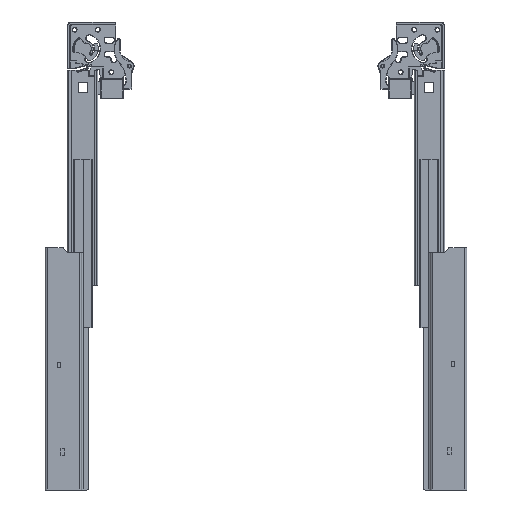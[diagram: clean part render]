
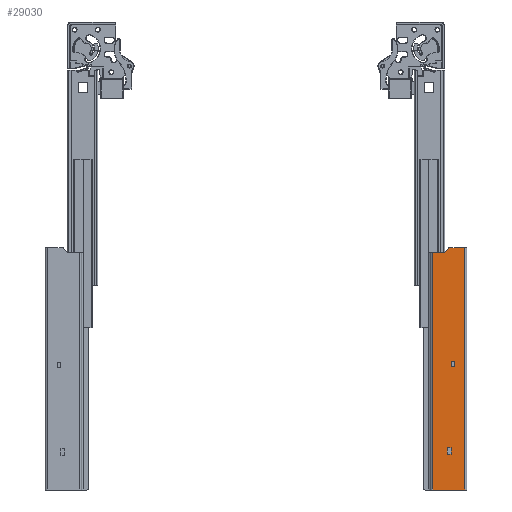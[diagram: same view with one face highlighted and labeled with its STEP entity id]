
A CAD part, front view. The second image highlights one B-rep face of the part: STEP entity #29030.
In plain terms, the highlighted planar face has unit normal (0, -1, 0).
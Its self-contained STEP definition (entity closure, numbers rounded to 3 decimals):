
#877=FACE_BOUND('',#6063,.T.);
#878=FACE_BOUND('',#6064,.T.);
#1187=CIRCLE('',#31018,2.);
#1189=CIRCLE('',#31022,2.);
#4128=FACE_OUTER_BOUND('',#6062,.T.);
#6062=EDGE_LOOP('',(#18963,#18964,#18965,#18966,#18967,#18968,#18969,#18970));
#6063=EDGE_LOOP('',(#18971,#18972,#18973,#18974));
#6064=EDGE_LOOP('',(#18975,#18976,#18977,#18978));
#8121=LINE('',#45211,#10031);
#8125=LINE('',#45219,#10035);
#8128=LINE('',#45225,#10038);
#8131=LINE('',#45230,#10041);
#8133=LINE('',#45236,#10043);
#8137=LINE('',#45244,#10047);
#8140=LINE('',#45250,#10050);
#8143=LINE('',#45255,#10053);
#8161=LINE('',#45312,#10071);
#8180=LINE('',#45364,#10090);
#8183=LINE('',#45375,#10093);
#8184=LINE('',#45378,#10094);
#8185=LINE('',#45380,#10095);
#8186=LINE('',#45381,#10096);
#10031=VECTOR('',#35344,5.);
#10035=VECTOR('',#35350,3.);
#10038=VECTOR('',#35355,5.);
#10041=VECTOR('',#35360,3.);
#10043=VECTOR('',#35366,6.);
#10047=VECTOR('',#35372,3.5);
#10050=VECTOR('',#35377,6.);
#10053=VECTOR('',#35382,3.5);
#10071=VECTOR('',#35436,5.414);
#10090=VECTOR('',#35481,9.672);
#10093=VECTOR('',#35492,225.);
#10094=VECTOR('',#35495,30.5);
#10095=VECTOR('',#35496,230.);
#10096=VECTOR('',#35497,14.172);
#11983=VERTEX_POINT('',#45209);
#11984=VERTEX_POINT('',#45210);
#11987=VERTEX_POINT('',#45218);
#11989=VERTEX_POINT('',#45224);
#11991=VERTEX_POINT('',#45234);
#11992=VERTEX_POINT('',#45235);
#11995=VERTEX_POINT('',#45243);
#11997=VERTEX_POINT('',#45249);
#12017=VERTEX_POINT('',#45305);
#12018=VERTEX_POINT('',#45307);
#12019=VERTEX_POINT('',#45311);
#12022=VERTEX_POINT('',#45319);
#12039=VERTEX_POINT('',#45362);
#12043=VERTEX_POINT('',#45373);
#12044=VERTEX_POINT('',#45377);
#12045=VERTEX_POINT('',#45379);
#14473=EDGE_CURVE('',#11983,#11984,#8121,.T.);
#14477=EDGE_CURVE('',#11984,#11987,#8125,.T.);
#14480=EDGE_CURVE('',#11987,#11989,#8128,.T.);
#14483=EDGE_CURVE('',#11989,#11983,#8131,.T.);
#14485=EDGE_CURVE('',#11991,#11992,#8133,.T.);
#14489=EDGE_CURVE('',#11992,#11995,#8137,.T.);
#14492=EDGE_CURVE('',#11995,#11997,#8140,.T.);
#14495=EDGE_CURVE('',#11997,#11991,#8143,.T.);
#14520=EDGE_CURVE('',#12018,#12017,#1187,.T.);
#14522=EDGE_CURVE('',#12018,#12019,#8161,.T.);
#14526=EDGE_CURVE('',#12022,#12019,#1189,.T.);
#14548=EDGE_CURVE('',#12039,#12017,#8180,.T.);
#14554=EDGE_CURVE('',#12039,#12043,#8183,.T.);
#14555=EDGE_CURVE('',#12043,#12044,#8184,.T.);
#14556=EDGE_CURVE('',#12045,#12044,#8185,.T.);
#14557=EDGE_CURVE('',#12045,#12022,#8186,.T.);
#18963=ORIENTED_EDGE('',*,*,#14526,.T.);
#18964=ORIENTED_EDGE('',*,*,#14522,.F.);
#18965=ORIENTED_EDGE('',*,*,#14520,.T.);
#18966=ORIENTED_EDGE('',*,*,#14548,.F.);
#18967=ORIENTED_EDGE('',*,*,#14554,.T.);
#18968=ORIENTED_EDGE('',*,*,#14555,.T.);
#18969=ORIENTED_EDGE('',*,*,#14556,.F.);
#18970=ORIENTED_EDGE('',*,*,#14557,.T.);
#18971=ORIENTED_EDGE('',*,*,#14473,.T.);
#18972=ORIENTED_EDGE('',*,*,#14477,.T.);
#18973=ORIENTED_EDGE('',*,*,#14480,.T.);
#18974=ORIENTED_EDGE('',*,*,#14483,.T.);
#18975=ORIENTED_EDGE('',*,*,#14485,.T.);
#18976=ORIENTED_EDGE('',*,*,#14489,.T.);
#18977=ORIENTED_EDGE('',*,*,#14492,.T.);
#18978=ORIENTED_EDGE('',*,*,#14495,.T.);
#26663=PLANE('',#31037);
#29030=ADVANCED_FACE('',(#4128,#877,#878),#26663,.F.);
#31018=AXIS2_PLACEMENT_3D('',#45308,#35431,#35432);
#31022=AXIS2_PLACEMENT_3D('',#45320,#35443,#35444);
#31037=AXIS2_PLACEMENT_3D('',#45376,#35493,#35494);
#35344=DIRECTION('',(0.,0.,1.));
#35350=DIRECTION('',(1.,0.,0.));
#35355=DIRECTION('',(0.,0.,-1.));
#35360=DIRECTION('',(-1.,0.,0.));
#35366=DIRECTION('',(0.,0.,1.));
#35372=DIRECTION('',(1.,0.,0.));
#35377=DIRECTION('',(0.,0.,-1.));
#35382=DIRECTION('',(-1.,0.,0.));
#35431=DIRECTION('center_axis',(0.,1.,0.));
#35432=DIRECTION('ref_axis',(0.383,0.,-0.924));
#35436=DIRECTION('',(0.707,0.,0.707));
#35443=DIRECTION('center_axis',(0.,-1.,0.));
#35444=DIRECTION('ref_axis',(-0.383,0.,0.924));
#35481=DIRECTION('',(1.,0.,0.));
#35492=DIRECTION('',(0.,0.,-1.));
#35493=DIRECTION('center_axis',(0.,1.,0.));
#35494=DIRECTION('ref_axis',(1.,0.,0.));
#35495=DIRECTION('',(1.,0.,0.));
#35496=DIRECTION('',(0.,0.,-1.));
#35497=DIRECTION('',(-1.,0.,0.));
#45209=CARTESIAN_POINT('',(-15.,0.,-113.));
#45210=CARTESIAN_POINT('',(-15.,0.,-108.));
#45211=CARTESIAN_POINT('',(-15.,0.,-54.));
#45218=CARTESIAN_POINT('',(-12.,0.,-108.));
#45219=CARTESIAN_POINT('',(-22.25,0.,-108.));
#45224=CARTESIAN_POINT('',(-12.,0.,-113.));
#45225=CARTESIAN_POINT('',(-12.,0.,-56.5));
#45230=CARTESIAN_POINT('',(-23.75,0.,-113.));
#45234=CARTESIAN_POINT('',(-18.5,0.,-196.));
#45235=CARTESIAN_POINT('',(-18.5,0.,-190.));
#45236=CARTESIAN_POINT('',(-18.5,0.,-95.));
#45243=CARTESIAN_POINT('',(-15.,0.,-190.));
#45244=CARTESIAN_POINT('',(-23.75,0.,-190.));
#45249=CARTESIAN_POINT('',(-15.,0.,-196.));
#45250=CARTESIAN_POINT('',(-15.,0.,-98.));
#45255=CARTESIAN_POINT('',(-25.5,0.,-196.));
#45305=CARTESIAN_POINT('',(-22.828,0.,-5.));
#45307=CARTESIAN_POINT('',(-21.414,0.,-4.414));
#45308=CARTESIAN_POINT('Origin',(-22.828,0.,
-3.));
#45311=CARTESIAN_POINT('',(-17.586,0.,-0.586));
#45312=CARTESIAN_POINT('',(-23.375,0.,-6.375));
#45319=CARTESIAN_POINT('',(-16.172,0.,0.));
#45320=CARTESIAN_POINT('Origin',(-16.172,0.,
-2.));
#45362=CARTESIAN_POINT('',(-32.5,0.,-5.));
#45364=CARTESIAN_POINT('',(-35.75,0.,-5.));
#45373=CARTESIAN_POINT('',(-32.5,0.,-230.));
#45375=CARTESIAN_POINT('',(-32.5,0.,0.));
#45376=CARTESIAN_POINT('Origin',(-32.5,0.,0.));
#45377=CARTESIAN_POINT('',(-2.,0.,-230.));
#45378=CARTESIAN_POINT('',(-2.,0.,-230.));
#45379=CARTESIAN_POINT('',(-2.,0.,0.));
#45380=CARTESIAN_POINT('',(-2.,0.,0.));
#45381=CARTESIAN_POINT('',(-2.,0.,0.));
